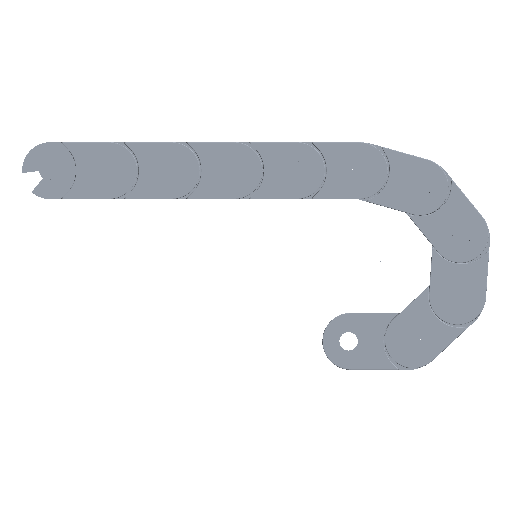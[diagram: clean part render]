
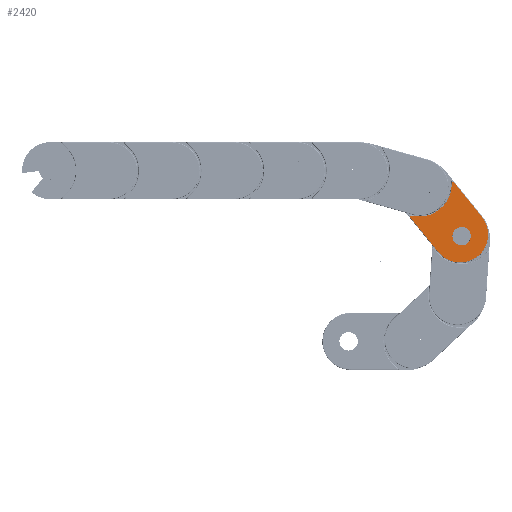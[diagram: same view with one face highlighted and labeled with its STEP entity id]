
A CAD part, left-side view. The second image highlights one B-rep face of the part: STEP entity #2420.
In plain terms, the highlighted free-form (B-spline) face has degree [1, 1] with [2, 2] control points.
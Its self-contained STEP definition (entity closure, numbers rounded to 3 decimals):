
#2319=CARTESIAN_POINT('',(-84.94,50.25,0.502));
#2320=CARTESIAN_POINT('',(-84.94,-14.302,0.502));
#2321=CARTESIAN_POINT('',(-84.94,50.25,49.747));
#2322=CARTESIAN_POINT('',(-84.94,-14.302,49.747));
#2323=B_SPLINE_SURFACE_WITH_KNOTS('',1,1,((#2319,#2321),(#2320,#2322)),.UNSPECIFIED.,.F.,.F.,.U.,(2,2),(2,2),(0.0,64.552),(0.0,49.245),.UNSPECIFIED.);
#2324=CARTESIAN_POINT('',(-84.94,-14.302,48.24));
#2325=VERTEX_POINT('',#2324);
#2326=CARTESIAN_POINT('',(-84.94,-14.302,49.747));
#2327=VERTEX_POINT('',#2326);
#2328=CARTESIAN_POINT('',(-84.94,-14.302,48.24));
#2329=DIRECTION('',(0.0,0.0,1.0));
#2330=VECTOR('',#2329,1.508);
#2331=LINE('',#2328,#2330);
#2332=EDGE_CURVE('',#2325,#2327,#2331,.T.);
#2333=ORIENTED_EDGE('',*,*,#2332,.T.);
#2334=CARTESIAN_POINT('',(-84.94,25.628,49.747));
#2335=VERTEX_POINT('',#2334);
#2336=CARTESIAN_POINT('',(-84.94,-14.302,49.747));
#2337=DIRECTION('',(0.0,1.0,0.0));
#2338=VECTOR('',#2337,39.929);
#2339=LINE('',#2336,#2338);
#2340=EDGE_CURVE('',#2327,#2335,#2339,.T.);
#2341=ORIENTED_EDGE('',*,*,#2340,.T.);
#2342=CARTESIAN_POINT('',(-84.94,25.628,0.502));
#2343=VERTEX_POINT('',#2342);
#2344=CARTESIAN_POINT('',(-84.94,25.628,25.125));
#2345=DIRECTION('',(-1.0,0.0,0.0));
#2346=DIRECTION('',(0.0,1.0,0.0));
#2347=AXIS2_PLACEMENT_3D('',#2344,#2345,#2346);
#2348=CIRCLE('',#2347,24.622);
#2349=EDGE_CURVE('',#2335,#2343,#2348,.T.);
#2350=ORIENTED_EDGE('',*,*,#2349,.T.);
#2351=CARTESIAN_POINT('',(-84.94,-14.302,0.502));
#2352=VERTEX_POINT('',#2351);
#2353=CARTESIAN_POINT('',(-84.94,25.628,0.502));
#2354=DIRECTION('',(0.0,-1.0,0.0));
#2355=VECTOR('',#2354,39.929);
#2356=LINE('',#2353,#2355);
#2357=EDGE_CURVE('',#2343,#2352,#2356,.T.);
#2358=ORIENTED_EDGE('',*,*,#2357,.T.);
#2359=CARTESIAN_POINT('',(-84.94,-14.302,2.01));
#2360=VERTEX_POINT('',#2359);
#2361=CARTESIAN_POINT('',(-84.94,-14.302,2.01));
#2362=DIRECTION('',(0.0,0.0,-1.0));
#2363=VECTOR('',#2362,1.508);
#2364=LINE('',#2361,#2363);
#2365=EDGE_CURVE('',#2360,#2352,#2364,.T.);
#2366=ORIENTED_EDGE('',*,*,#2365,.F.);
#2367=CARTESIAN_POINT('',(-84.94,-10.668,5.643));
#2368=VERTEX_POINT('',#2367);
#2369=CARTESIAN_POINT('',(-84.94,-14.302,2.01));
#2370=DIRECTION('',(0.0,0.707,0.707));
#2371=VECTOR('',#2370,5.138);
#2372=LINE('',#2369,#2371);
#2373=EDGE_CURVE('',#2360,#2368,#2372,.T.);
#2374=ORIENTED_EDGE('',*,*,#2373,.T.);
#2375=CARTESIAN_POINT('',(-84.94,-3.015,24.12));
#2376=VERTEX_POINT('',#2375);
#2377=CARTESIAN_POINT('',(-84.94,-29.145,24.12));
#2378=DIRECTION('',(1.0,0.0,0.0));
#2379=DIRECTION('',(0.0,1.0,0.0));
#2380=AXIS2_PLACEMENT_3D('',#2377,#2378,#2379);
#2381=CIRCLE('',#2380,26.13);
#2382=EDGE_CURVE('',#2368,#2376,#2381,.T.);
#2383=ORIENTED_EDGE('',*,*,#2382,.T.);
#2384=CARTESIAN_POINT('',(-84.94,-3.015,26.13));
#2385=VERTEX_POINT('',#2384);
#2386=CARTESIAN_POINT('',(-84.94,-3.015,24.12));
#2387=DIRECTION('',(0.0,0.0,1.0));
#2388=VECTOR('',#2387,2.01);
#2389=LINE('',#2386,#2388);
#2390=EDGE_CURVE('',#2376,#2385,#2389,.T.);
#2391=ORIENTED_EDGE('',*,*,#2390,.T.);
#2392=CARTESIAN_POINT('',(-84.94,-10.668,44.607));
#2393=VERTEX_POINT('',#2392);
#2394=CARTESIAN_POINT('',(-84.94,-29.145,26.13));
#2395=DIRECTION('',(1.0,0.0,0.0));
#2396=DIRECTION('',(0.0,1.0,0.0));
#2397=AXIS2_PLACEMENT_3D('',#2394,#2395,#2396);
#2398=CIRCLE('',#2397,26.13);
#2399=EDGE_CURVE('',#2385,#2393,#2398,.T.);
#2400=ORIENTED_EDGE('',*,*,#2399,.T.);
#2401=CARTESIAN_POINT('',(-84.94,-10.668,44.607));
#2402=DIRECTION('',(0.,-0.707,0.707));
#2403=VECTOR('',#2402,5.138);
#2404=LINE('',#2401,#2403);
#2405=EDGE_CURVE('',#2393,#2325,#2404,.T.);
#2406=ORIENTED_EDGE('',*,*,#2405,.T.);
#2407=EDGE_LOOP('',(#2333,#2341,#2350,#2358,#2366,#2374,#2383,#2391,#2400,#2406));
#2408=FACE_OUTER_BOUND('',#2407,.T.);
#2409=CARTESIAN_POINT('',(-84.94,35.728,25.125));
#2410=VERTEX_POINT('',#2409);
#2411=CARTESIAN_POINT('',(-84.94,27.638,25.125));
#2412=DIRECTION('',(-1.0,0.0,0.0));
#2413=DIRECTION('',(0.0,1.0,0.0));
#2414=AXIS2_PLACEMENT_3D('',#2411,#2412,#2413);
#2415=CIRCLE('',#2414,8.09);
#2416=EDGE_CURVE('',#2410,#2410,#2415,.T.);
#2417=ORIENTED_EDGE('',*,*,#2416,.F.);
#2418=EDGE_LOOP('',(#2417));
#2419=FACE_BOUND('',#2418,.T.);
#2420=ADVANCED_FACE('',(#2408,#2419),#2323,.T.);
